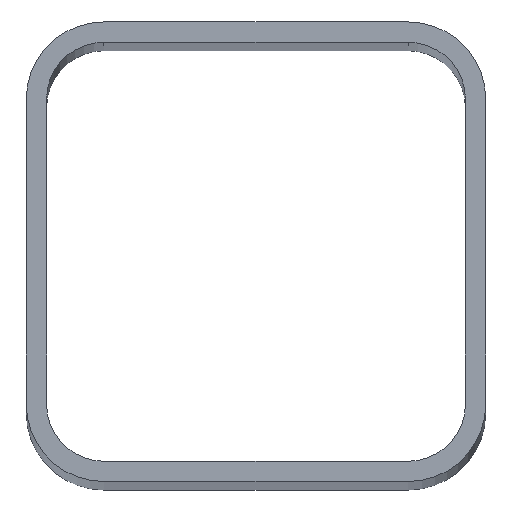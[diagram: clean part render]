
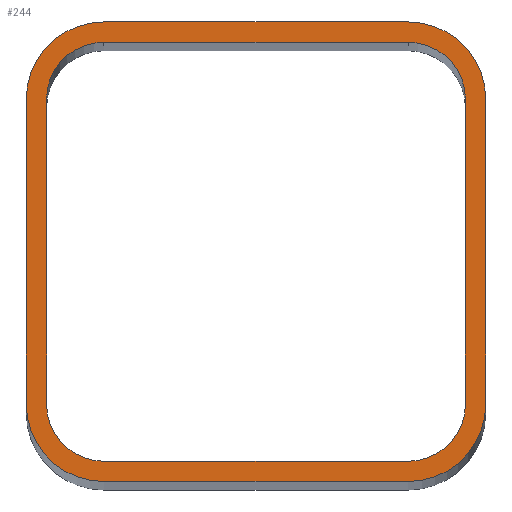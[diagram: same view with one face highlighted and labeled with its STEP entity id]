
A CAD part, top view. The second image highlights one B-rep face of the part: STEP entity #244.
In plain terms, the highlighted planar face has unit normal (0, 0, 1).
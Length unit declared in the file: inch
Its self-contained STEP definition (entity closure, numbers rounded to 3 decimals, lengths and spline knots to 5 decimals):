
#19 = DIRECTION ( 'NONE',  ( 0., 1., 0. ) ) ;
#24 = CARTESIAN_POINT ( 'NONE',  ( -0.37538, 0.37538, 6. ) ) ;
#25 = DIRECTION ( 'NONE',  ( 0., 0., 1. ) ) ;
#26 = DIRECTION ( 'NONE',  ( 1., 0., 0. ) ) ;
#34 = LINE ( 'NONE', #47, #174 ) ;
#47 = CARTESIAN_POINT ( 'NONE',  ( -0.37538, -0.566, 6. ) ) ;
#48 = DIRECTION ( 'NONE',  ( 1., 0., 0. ) ) ;
#57 = LINE ( 'NONE', #66, #122 ) ;
#59 = CARTESIAN_POINT ( 'NONE',  ( 0.37538, -0.37538, 6. ) ) ;
#60 = DIRECTION ( 'NONE',  ( 0., 0., 1. ) ) ;
#61 = DIRECTION ( 'NONE',  ( 1., 0., 0. ) ) ;
#66 = CARTESIAN_POINT ( 'NONE',  ( -0.37538, -0.516, 6. ) ) ;
#68 = DIRECTION ( 'NONE',  ( 1., 0., 0. ) ) ;
#70 = ORIENTED_EDGE ( 'NONE', *, *, #245, .F. ) ;
#78 = ORIENTED_EDGE ( 'NONE', *, *, #225, .F. ) ;
#79 = ORIENTED_EDGE ( 'NONE', *, *, #213, .T. ) ;
#80 = ORIENTED_EDGE ( 'NONE', *, *, #217, .F. ) ;
#88 = ORIENTED_EDGE ( 'NONE', *, *, #223, .T. ) ;
#89 = ORIENTED_EDGE ( 'NONE', *, *, #271, .F. ) ;
#91 = ORIENTED_EDGE ( 'NONE', *, *, #257, .F. ) ;
#98 = ORIENTED_EDGE ( 'NONE', *, *, #267, .T. ) ;
#104 = ORIENTED_EDGE ( 'NONE', *, *, #205, .F. ) ;
#109 = ORIENTED_EDGE ( 'NONE', *, *, #224, .T. ) ;
#112 = ORIENTED_EDGE ( 'NONE', *, *, #204, .T. ) ;
#116 = ORIENTED_EDGE ( 'NONE', *, *, #228, .F. ) ;
#118 = ORIENTED_EDGE ( 'NONE', *, *, #237, .T. ) ;
#119 = ORIENTED_EDGE ( 'NONE', *, *, #238, .T. ) ;
#122 = VECTOR ( 'NONE', #68, 39.37008 ) ;
#124 = CIRCLE ( 'NONE', #146, 0.14063 ) ;
#127 = VECTOR ( 'NONE', #482, 39.37008 ) ;
#131 = CIRCLE ( 'NONE', #171, 0.14063 ) ;
#135 = VECTOR ( 'NONE', #19, 39.37008 ) ;
#136 = VECTOR ( 'NONE', #350, 39.37008 ) ;
#143 = AXIS2_PLACEMENT_3D ( 'NONE', #384, #385, #386 ) ;
#146 = AXIS2_PLACEMENT_3D ( 'NONE', #59, #60, #61 ) ;
#147 = AXIS2_PLACEMENT_3D ( 'NONE', #461, #492, #494 ) ;
#150 = CIRCLE ( 'NONE', #143, 0.14063 ) ;
#153 = AXIS2_PLACEMENT_3D ( 'NONE', #339, #343, #344 ) ;
#162 = CIRCLE ( 'NONE', #165, 0.19062 ) ;
#164 = CIRCLE ( 'NONE', #167, 0.19062 ) ;
#165 = AXIS2_PLACEMENT_3D ( 'NONE', #368, #369, #370 ) ;
#166 = VECTOR ( 'NONE', #376, 39.37008 ) ;
#167 = AXIS2_PLACEMENT_3D ( 'NONE', #373, #374, #375 ) ;
#169 = CIRCLE ( 'NONE', #147, 0.19062 ) ;
#171 = AXIS2_PLACEMENT_3D ( 'NONE', #24, #25, #26 ) ;
#174 = VECTOR ( 'NONE', #48, 39.37008 ) ;
#181 = AXIS2_PLACEMENT_3D ( 'NONE', #295, #296, #297 ) ;
#185 = VECTOR ( 'NONE', #550, 39.37008 ) ;
#187 = AXIS2_PLACEMENT_3D ( 'NONE', #555, #556, #557 ) ;
#195 = CIRCLE ( 'NONE', #187, 0.19062 ) ;
#197 = VECTOR ( 'NONE', #558, 39.37008 ) ;
#200 = CIRCLE ( 'NONE', #181, 0.14063 ) ;
#204 = EDGE_CURVE ( 'NONE', #589, #513, #565, .T. ) ;
#205 = EDGE_CURVE ( 'NONE', #579, #515, #131, .T. ) ;
#213 = EDGE_CURVE ( 'NONE', #569, #580, #34, .T. ) ;
#217 = EDGE_CURVE ( 'NONE', #573, #572, #124, .T. ) ;
#220 = EDGE_CURVE ( 'NONE', #586, #573, #57, .T. ) ;
#223 = EDGE_CURVE ( 'NONE', #513, #590, #162, .T. ) ;
#224 = EDGE_CURVE ( 'NONE', #580, #589, #164, .T. ) ;
#225 = EDGE_CURVE ( 'NONE', #596, #579, #366, .T. ) ;
#228 = EDGE_CURVE ( 'NONE', #593, #586, #150, .T. ) ;
#235 = EDGE_CURVE ( 'NONE', #587, #577, #548, .T. ) ;
#237 = EDGE_CURVE ( 'NONE', #577, #569, #195, .T. ) ;
#238 = EDGE_CURVE ( 'NONE', #590, #582, #383, .T. ) ;
#244 = ADVANCED_FACE ( 'NONE', ( #337, #338 ), #329, .T. ) ;
#245 = EDGE_CURVE ( 'NONE', #515, #593, #348, .T. ) ;
#257 = EDGE_CURVE ( 'NONE', #572, #514, #472, .T. ) ;
#267 = EDGE_CURVE ( 'NONE', #582, #587, #169, .T. ) ;
#271 = EDGE_CURVE ( 'NONE', #514, #596, #200, .T. ) ;
#295 = CARTESIAN_POINT ( 'NONE',  ( 0.37538, 0.37538, 6. ) ) ;
#296 = DIRECTION ( 'NONE',  ( 0., 0., 1. ) ) ;
#297 = DIRECTION ( 'NONE',  ( 1., 0., 0. ) ) ;
#302 = CARTESIAN_POINT ( 'NONE',  ( -0.516, 0.37538, 6. ) ) ;
#305 = CARTESIAN_POINT ( 'NONE',  ( 0.37538, -0.516, 6. ) ) ;
#306 = CARTESIAN_POINT ( 'NONE',  ( 0.566, 0.37538, 6. ) ) ;
#307 = CARTESIAN_POINT ( 'NONE',  ( 0.516, 0.37538, 6. ) ) ;
#308 = CARTESIAN_POINT ( 'NONE',  ( -0.37538, -0.566, 6. ) ) ;
#310 = CARTESIAN_POINT ( 'NONE',  ( 0.516, -0.37538, 6. ) ) ;
#329 = PLANE ( 'NONE',  #153 ) ;
#337 = FACE_OUTER_BOUND ( 'NONE', #392, .T. ) ;
#338 = FACE_BOUND ( 'NONE', #395, .T. ) ;
#339 = CARTESIAN_POINT ( 'NONE',  ( 0.37538, 0.37538, 6. ) ) ;
#343 = DIRECTION ( 'NONE',  ( 0., 0., 1. ) ) ;
#344 = DIRECTION ( 'NONE',  ( 1., 0., 0. ) ) ;
#348 = LINE ( 'NONE', #349, #136 ) ;
#349 = CARTESIAN_POINT ( 'NONE',  ( -0.516, -0.37538, 6. ) ) ;
#350 = DIRECTION ( 'NONE',  ( 0., -1., 0. ) ) ;
#366 = LINE ( 'NONE', #367, #166 ) ;
#367 = CARTESIAN_POINT ( 'NONE',  ( 0.37538, 0.516, 6. ) ) ;
#368 = CARTESIAN_POINT ( 'NONE',  ( 0.37538, 0.37538, 6. ) ) ;
#369 = DIRECTION ( 'NONE',  ( 0., 0., 1. ) ) ;
#370 = DIRECTION ( 'NONE',  ( 1., 0., 0. ) ) ;
#373 = CARTESIAN_POINT ( 'NONE',  ( 0.37538, -0.37538, 6. ) ) ;
#374 = DIRECTION ( 'NONE',  ( 0., 0., 1. ) ) ;
#375 = DIRECTION ( 'NONE',  ( 1., 0., 0. ) ) ;
#376 = DIRECTION ( 'NONE',  ( -1., 0., 0. ) ) ;
#383 = LINE ( 'NONE', #539, #197 ) ;
#384 = CARTESIAN_POINT ( 'NONE',  ( -0.37538, -0.37538, 6. ) ) ;
#385 = DIRECTION ( 'NONE',  ( 0., 0., 1. ) ) ;
#386 = DIRECTION ( 'NONE',  ( 1., 0., 0. ) ) ;
#389 = ORIENTED_EDGE ( 'NONE', *, *, #235, .T. ) ;
#390 = ORIENTED_EDGE ( 'NONE', *, *, #220, .F. ) ;
#392 = EDGE_LOOP ( 'NONE', ( #88, #119, #98, #389, #118, #79, #109, #112 ) ) ;
#395 = EDGE_LOOP ( 'NONE', ( #70, #104, #78, #89, #91, #80, #390, #116 ) ) ;
#457 = CARTESIAN_POINT ( 'NONE',  ( -0.566, -0.37538, 6. ) ) ;
#461 = CARTESIAN_POINT ( 'NONE',  ( -0.37538, 0.37538, 6. ) ) ;
#472 = LINE ( 'NONE', #481, #127 ) ;
#481 = CARTESIAN_POINT ( 'NONE',  ( 0.516, 0.37538, 6. ) ) ;
#482 = DIRECTION ( 'NONE',  ( 0., 1., 0. ) ) ;
#492 = DIRECTION ( 'NONE',  ( 0., 0., 1. ) ) ;
#494 = DIRECTION ( 'NONE',  ( 1., 0., 0. ) ) ;
#513 = VERTEX_POINT ( 'NONE', #306 ) ;
#514 = VERTEX_POINT ( 'NONE', #307 ) ;
#515 = VERTEX_POINT ( 'NONE', #302 ) ;
#539 = CARTESIAN_POINT ( 'NONE',  ( 0.37538, 0.566, 6. ) ) ;
#548 = LINE ( 'NONE', #549, #185 ) ;
#549 = CARTESIAN_POINT ( 'NONE',  ( -0.566, -0.37538, 6. ) ) ;
#550 = DIRECTION ( 'NONE',  ( 0., -1., 0. ) ) ;
#555 = CARTESIAN_POINT ( 'NONE',  ( -0.37538, -0.37538, 6. ) ) ;
#556 = DIRECTION ( 'NONE',  ( 0., 0., 1. ) ) ;
#557 = DIRECTION ( 'NONE',  ( 1., 0., 0. ) ) ;
#558 = DIRECTION ( 'NONE',  ( -1., 0., 0. ) ) ;
#565 = LINE ( 'NONE', #567, #135 ) ;
#567 = CARTESIAN_POINT ( 'NONE',  ( 0.566, 0.37538, 6. ) ) ;
#569 = VERTEX_POINT ( 'NONE', #308 ) ;
#572 = VERTEX_POINT ( 'NONE', #310 ) ;
#573 = VERTEX_POINT ( 'NONE', #305 ) ;
#577 = VERTEX_POINT ( 'NONE', #457 ) ;
#579 = VERTEX_POINT ( 'NONE', #599 ) ;
#580 = VERTEX_POINT ( 'NONE', #600 ) ;
#582 = VERTEX_POINT ( 'NONE', #602 ) ;
#586 = VERTEX_POINT ( 'NONE', #606 ) ;
#587 = VERTEX_POINT ( 'NONE', #607 ) ;
#589 = VERTEX_POINT ( 'NONE', #609 ) ;
#590 = VERTEX_POINT ( 'NONE', #610 ) ;
#593 = VERTEX_POINT ( 'NONE', #613 ) ;
#596 = VERTEX_POINT ( 'NONE', #616 ) ;
#599 = CARTESIAN_POINT ( 'NONE',  ( -0.37538, 0.516, 6. ) ) ;
#600 = CARTESIAN_POINT ( 'NONE',  ( 0.37538, -0.566, 6. ) ) ;
#602 = CARTESIAN_POINT ( 'NONE',  ( -0.37538, 0.566, 6. ) ) ;
#606 = CARTESIAN_POINT ( 'NONE',  ( -0.37538, -0.516, 6. ) ) ;
#607 = CARTESIAN_POINT ( 'NONE',  ( -0.566, 0.37538, 6. ) ) ;
#609 = CARTESIAN_POINT ( 'NONE',  ( 0.566, -0.37538, 6. ) ) ;
#610 = CARTESIAN_POINT ( 'NONE',  ( 0.37538, 0.566, 6. ) ) ;
#613 = CARTESIAN_POINT ( 'NONE',  ( -0.516, -0.37538, 6. ) ) ;
#616 = CARTESIAN_POINT ( 'NONE',  ( 0.37538, 0.516, 6. ) ) ;
